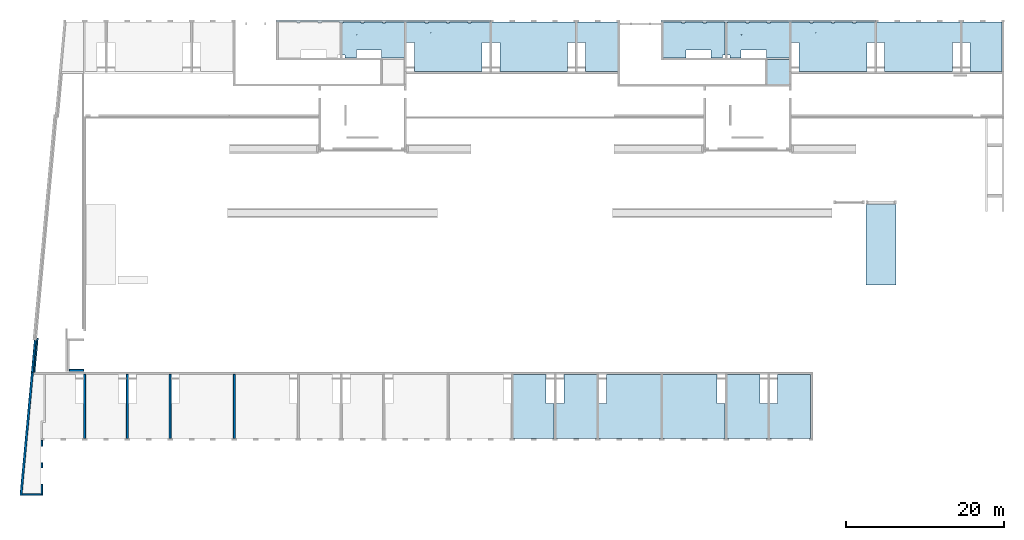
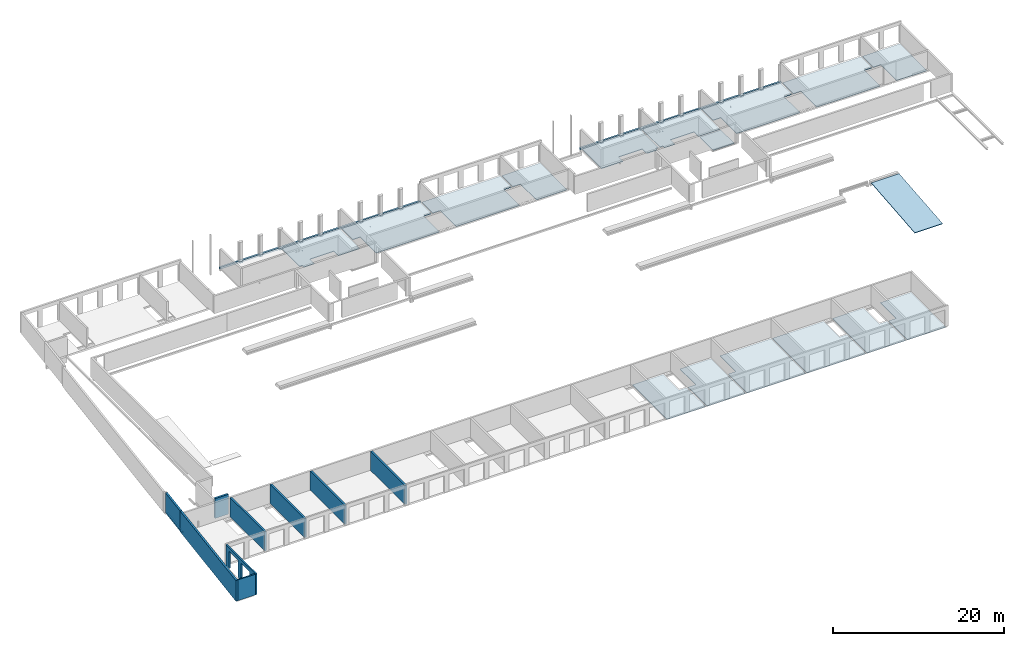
# One storey, part 7 of 18: 19 slabs, 10 walls, 6 openings.
"""IFC2X3 building model written with IfcOpenShell, lengths in millimetres."""

from ifc_helpers import new_model, entity, si_unit, converted_unit, derived_unit, direction, frame, frame_2d, origin, place, context, subcontext, project, spatial, polyline, rectangle, circle, outline, extrude, clip, halfspace, material, layer, layer_set, layer_usage, type_object, element, save


model = new_model("IFC2X3")

# Units and contexts
model_context = context("Model", 3, precision=0.01, world=origin(), true_north=direction((6.12303176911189e-17, 1.0)))
body_context = subcontext(model_context, "Body", "Model", "MODEL_VIEW")
ifc_project = project(units=[si_unit("LENGTHUNIT", "METRE", prefix="MILLI"), si_unit("AREAUNIT", "SQUARE_METRE"), si_unit("VOLUMEUNIT", "CUBIC_METRE"), converted_unit("PLANEANGLEUNIT", "DEGREE", entity("IfcRatioMeasure", 0.0174532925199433), si_unit("PLANEANGLEUNIT", "RADIAN"), dimensions=[0, 0, 0, 0, 0, 0, 0]), si_unit("MASSUNIT", "GRAM", prefix="KILO"), derived_unit("MASSDENSITYUNIT", [(si_unit("MASSUNIT", "GRAM", prefix="KILO"), 1), (si_unit("LENGTHUNIT", "METRE"), -3)]), si_unit("TIMEUNIT", "SECOND"), si_unit("FREQUENCYUNIT", "HERTZ"), si_unit("THERMODYNAMICTEMPERATUREUNIT", "DEGREE_CELSIUS"), derived_unit("THERMALTRANSMITTANCEUNIT", [(si_unit("MASSUNIT", "GRAM", prefix="KILO"), 1), (si_unit("THERMODYNAMICTEMPERATUREUNIT", "KELVIN"), -1), (si_unit("TIMEUNIT", "SECOND"), -3)]), derived_unit("VOLUMETRICFLOWRATEUNIT", [(si_unit("LENGTHUNIT", "METRE"), 3), (si_unit("TIMEUNIT", "SECOND"), -1)]), si_unit("ELECTRICCURRENTUNIT", "AMPERE"), si_unit("ELECTRICVOLTAGEUNIT", "VOLT"), si_unit("POWERUNIT", "WATT"), si_unit("FORCEUNIT", "NEWTON", prefix="KILO"), si_unit("ILLUMINANCEUNIT", "LUX"), si_unit("LUMINOUSFLUXUNIT", "LUMEN"), si_unit("LUMINOUSINTENSITYUNIT", "CANDELA"), derived_unit("USERDEFINED", [(si_unit("MASSUNIT", "GRAM", prefix="KILO"), -1), (si_unit("LENGTHUNIT", "METRE"), -2), (si_unit("TIMEUNIT", "SECOND"), 3), (si_unit("LUMINOUSFLUXUNIT", "LUMEN"), 1)]), derived_unit("LINEARVELOCITYUNIT", [(si_unit("LENGTHUNIT", "METRE"), 1), (si_unit("TIMEUNIT", "SECOND"), -1)]), si_unit("PRESSUREUNIT", "PASCAL"), derived_unit("USERDEFINED", [(si_unit("LENGTHUNIT", "METRE"), -2), (si_unit("MASSUNIT", "GRAM", prefix="KILO"), 1), (si_unit("TIMEUNIT", "SECOND"), -2)])], contexts=[model_context])

# Site, building, storey
site_placement = place(None, origin())
site = spatial("IfcSite", under=ifc_project, at=site_placement, Name="Default", CompositionType="ELEMENT")
building_placement = place(site_placement, origin())
building = spatial("IfcBuilding", under=site, at=building_placement, Name="niet gebruiken", CompositionType="ELEMENT")
storey_placement = place(building_placement, frame((0.0, 0.0, 3690.0)))
storey = spatial("IfcBuildingStorey", under=building, at=storey_placement, Name="01 eerste verdieping", CompositionType="ELEMENT", Elevation=3690.00000000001)

# Slabs
ifc_material_1 = material(Name="NLRS_f2_beton ihwg")
ifc_layer_1 = layer(ifc_material_1, 250.0)
ifc_layer_set_1 = layer_set([ifc_layer_1], Name="Floor:NLRS_23.21_FL_breedplaat d=70/250_schil apart_gen")
ifc_layer_usage_1 = layer_usage(ifc_layer_set_1, "AXIS3", "POSITIVE", 0.0)
slab_1_placement = place(storey_placement, frame((32300.0, 52846.0, -340.0)))
element("IfcSlab", 1, at=slab_1_placement, inside=storey, material=ifc_layer_usage_1, Name="Floor:NLRS_23.21_FL_breedplaat d=70/250_schil apart_gen", ObjectType="Floor:NLRS_23.21_FL_breedplaat d=70/250_schil apart_gen", PredefinedType="FLOOR", context=body_context, shape_type="SweptSolid", body=[
    extrude(outline(polyline([(13540.0, 205.0), (-13540.0, 205.0), (-13540.0, -45.0), (-11065.0, -45.0), (-11065.0, -205.0), (-10655.0, -205.0), (-10655.0, -45.0), (-8365.0, -45.0), (-8365.0, -205.0), (-7955.0, -205.0), (-7955.0, -45.0), (-5665.0, -45.0), (-5665.0, -205.0), (-5255.0, -205.0), (-5255.0, -45.0), (-265.0, -45.0), (-265.0, -205.0), (145.0, -205.0), (145.0, -45.0), (2435.0, -45.0), (2435.0, -205.0), (2845.0, -205.0), (2845.0, -45.0), (5135.0, -45.0), (5135.0, -205.0), (5545.0, -205.0), (5545.0, -45.0), (7835.0, -45.0), (7835.0, -205.0), (8245.0, -205.0), (8245.0, -45.0), (10535.0, -45.0), (10535.0, -205.0), (10945.0, -205.0), (10945.0, -45.0), (13540.0, -45.0), (13540.0, 205.0)])), frame((13540.0, 205.0, 250.0), z_axis=(0.0, 0.0, -1.0), x_axis=(-1.0, 0.0, 0.0)), (0.0, 0.0, 1.0), 250.0),
])
ifc_layer_usage_2 = layer_usage(ifc_layer_set_1, "AXIS3", "POSITIVE", 0.0)
slab_2_placement = place(storey_placement, frame((80900.0, 52846.0, -340.0)))
element("IfcSlab", 2, at=slab_2_placement, inside=storey, material=ifc_layer_usage_2, Name="Floor:NLRS_23.21_FL_breedplaat d=70/250_schil apart_gen", ObjectType="Floor:NLRS_23.21_FL_breedplaat d=70/250_schil apart_gen", PredefinedType="FLOOR", context=body_context, shape_type="SweptSolid", body=[
    extrude(outline(polyline([(13540.0, 205.0), (-13540.0, 205.0), (-13540.0, -45.0), (-11065.0, -45.0), (-11065.0, -205.0), (-10655.0, -205.0), (-10655.0, -45.0), (-8365.0, -45.0), (-8365.0, -205.0), (-7955.0, -205.0), (-7955.0, -45.0), (-5665.0, -45.0), (-5665.0, -205.0), (-5255.0, -205.0), (-5255.0, -45.0), (-265.0, -45.0), (-265.0, -205.0), (145.0, -205.0), (145.0, -45.0), (2435.0, -45.0), (2435.0, -205.0), (2845.0, -205.0), (2845.0, -45.0), (5135.0, -45.0), (5135.0, -205.0), (5545.0, -205.0), (5545.0, -45.0), (7835.0, -45.0), (7835.0, -205.0), (8245.0, -205.0), (8245.0, -45.0), (10535.0, -45.0), (10535.0, -205.0), (10945.0, -205.0), (10945.0, -45.0), (13540.0, -45.0), (13540.0, 205.0)])), frame((13540.0, 205.0, 250.0), z_axis=(0.0, 0.0, -1.0), x_axis=(-1.0, 0.0, 0.0)), (0.0, 0.0, 1.0), 250.0),
])
ifc_material_2 = material(Name="NLRS_f2_beton prefab")
ifc_layer_2 = layer(ifc_material_2, 70.0)
ifc_layer_set_2 = layer_set([ifc_layer_2], Name="Floor:NLRS_23.21_FL_breedplaatschil d=70_gen")
ifc_layer_usage_3 = layer_usage(ifc_layer_set_2, "AXIS3", "POSITIVE", 0.0)
slab_3_placement = place(storey_placement, origin())
element("IfcSlab", 3, at=slab_3_placement, inside=storey, material=ifc_layer_usage_3, Name="Floor:NLRS_23.21_FL_breedplaatschil d=70_gen", ObjectType="Floor:NLRS_23.21_FL_breedplaatschil d=70_gen", PredefinedType="FLOOR", context=body_context, shape_type="SweptSolid", body=[
    extrude(outline(polyline([(-4164.0, -2070.0), (232.0, -2070.0), (232.0, -1050.0), (3932.0, -1050.0), (3932.0, 3120.0), (-4164.0, 3120.0), (-4164.0, -2070.0)])), frame((96675.0, 4584.0, -270.0), z_axis=(0.0, 0.0, -1.0), x_axis=(0.0, 1.0, 0.0)), (0.0, 0.0, 1.0), 69.9999999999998),
])
ifc_layer_usage_4 = layer_usage(ifc_layer_set_2, "AXIS3", "POSITIVE", 0.0)
slab_4_placement = place(storey_placement, origin())
element("IfcSlab", 4, at=slab_4_placement, inside=storey, material=ifc_layer_usage_4, Name="Floor:NLRS_23.21_FL_breedplaatschil d=70_gen", ObjectType="Floor:NLRS_23.21_FL_breedplaatschil d=70_gen", PredefinedType="FLOOR", context=body_context, shape_type="SweptSolid", body=[
    extrude(outline(polyline([(-4164.0, -3120.0), (3932.0, -3120.0), (3932.0, 1050.0), (232.0, 1050.0), (232.0, 2070.0), (-4164.0, 2070.0), (-4164.0, -3120.0)])), frame((65325.0, 4584.0, -270.0), z_axis=(0.0, 0.0, -1.0), x_axis=(0.0, 1.0, 0.0)), (0.0, 0.0, 1.0), 69.9999999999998),
])
ifc_layer_usage_5 = layer_usage(ifc_layer_set_2, "AXIS3", "POSITIVE", 0.0)
slab_5_placement = place(storey_placement, origin())
element("IfcSlab", 5, at=slab_5_placement, inside=storey, material=ifc_layer_usage_5, Name="Floor:NLRS_23.21_FL_breedplaatschil d=70_gen", ObjectType="Floor:NLRS_23.21_FL_breedplaatschil d=70_gen", PredefinedType="FLOOR", context=body_context, shape_type="SweptSolid", body=[
    extrude(outline(polyline([(-4164.0, -2070.0), (232.0, -2070.0), (232.0, -1050.0), (3932.0, -1050.0), (3932.0, 3120.0), (-4164.0, 3120.0), (-4164.0, -2070.0)])), frame((69675.0, 4584.0, -270.0), z_axis=(0.0, 0.0, -1.0), x_axis=(0.0, 1.0, 0.0)), (0.0, 0.0, 1.0), 69.9999999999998),
])
ifc_layer_usage_6 = layer_usage(ifc_layer_set_2, "AXIS3", "POSITIVE", 0.0)
slab_6_placement = place(storey_placement, origin())
element("IfcSlab", 6, at=slab_6_placement, inside=storey, material=ifc_layer_usage_6, Name="Floor:NLRS_23.21_FL_breedplaatschil d=70_gen", ObjectType="Floor:NLRS_23.21_FL_breedplaatschil d=70_gen", PredefinedType="FLOOR", context=body_context, shape_type="SweptSolid", body=[
    extrude(outline(polyline([(-4164.0, -3120.0), (3932.0, -3120.0), (3932.0, 1050.0), (232.0, 1050.0), (232.0, 2070.0), (-4164.0, 2070.0), (-4164.0, -3120.0)])), frame((92325.0, 4584.0, -270.0), z_axis=(0.0, 0.0, -1.0), x_axis=(0.0, 1.0, 0.0)), (0.0, 0.0, 1.0), 69.9999999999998),
])
ifc_layer_usage_7 = layer_usage(ifc_layer_set_2, "AXIS3", "POSITIVE", 0.0)
slab_7_placement = place(storey_placement, origin())
element("IfcSlab", 7, at=slab_7_placement, inside=storey, material=ifc_layer_usage_7, Name="Floor:NLRS_23.21_FL_breedplaatschil d=70_gen", ObjectType="Floor:NLRS_23.21_FL_breedplaatschil d=70_gen", PredefinedType="FLOOR", context=body_context, shape_type="SweptSolid", body=[
    extrude(outline(polyline([(-4164.0, -2970.0), (232.0, -2970.0), (232.0, -1950.0), (3932.0, -1950.0), (3932.0, 4920.0), (-4164.0, 4920.0), (-4164.0, -2970.0)])), frame((75975.0, 4584.0, -270.0), z_axis=(0.0, 0.0, -1.0), x_axis=(0.0, 1.0, 0.0)), (0.0, 0.0, 1.0), 69.9999999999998),
])
ifc_layer_usage_8 = layer_usage(ifc_layer_set_2, "AXIS3", "POSITIVE", 0.0)
slab_8_placement = place(storey_placement, origin())
element("IfcSlab", 8, at=slab_8_placement, inside=storey, material=ifc_layer_usage_8, Name="Floor:NLRS_23.21_FL_breedplaatschil d=70_gen", ObjectType="Floor:NLRS_23.21_FL_breedplaatschil d=70_gen", PredefinedType="FLOOR", context=body_context, shape_type="SweptSolid", body=[
    extrude(outline(polyline([(-4164.0, -4920.0), (3932.0, -4920.0), (3932.0, 1950.0), (232.0, 1950.0), (232.0, 2970.0), (-4164.0, 2970.0), (-4164.0, -4920.0)])), frame((86025.0, 4584.0, -270.0), z_axis=(0.0, 0.0, -1.0), x_axis=(0.0, 1.0, 0.0)), (0.0, 0.0, 1.0), 69.9999999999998),
])

# Slab, opening
ifc_layer_usage_9 = layer_usage(ifc_layer_set_2, "AXIS3", "POSITIVE", 0.0)
slab_9_placement = place(storey_placement, frame((40605.0, 45136.0, -340.0)))
slab_9 = element("IfcSlab", 9, at=slab_9_placement, inside=storey, material=ifc_layer_usage_9, Name="Floor:NLRS_23.21_FL_breedplaatschil d=70_gen", ObjectType="Floor:NLRS_23.21_FL_breedplaatschil d=70_gen", PredefinedType="FLOOR", context=body_context, shape_type="SweptSolid", body=[
    extrude(outline(polyline([(-1535.0, 3945.0), (-3945.0, 3945.0), (-3945.0, -625.0), (-1055.0, -625.0), (-1055.0, 395.0), (2145.0, 395.0), (2145.0, -625.0), (3575.0, -625.0), (3575.0, -255.0), (3945.0, -255.0), (3945.0, 3785.0), (3865.0, 3785.0), (3865.0, 3945.0), (1535.0, 3945.0), (1535.0, 3785.0), (1165.0, 3785.0), (1165.0, 3945.0), (-1165.0, 3945.0), (-1165.0, 3785.0), (-1535.0, 3785.0), (-1535.0, 3945.0)])), frame((3945.0, 3945.0, 70.0), z_axis=(0.0, 0.0, -1.0), x_axis=(-1.0, 0.0, 0.0)), (0.0, 0.0, 1.0), 69.9999999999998),
])
opening_1_placement = place(storey_placement, frame((40605.0, 45136.0, -340.0)))
element("IfcOpeningElement", 10, at=opening_1_placement, cuts=slab_9, ObjectType="Opening", context=body_context, shape_type="SweptSolid", body=[
    extrude(circle(Radius=37.5, at=frame_2d((2100.0, 2325.0), x_axis=(1.0, 0.0))), frame((3945.0, 3945.0, 70.0), z_axis=(0.0, 0.0, -1.0), x_axis=(-1.0, 0.0, 0.0)), (0.0, 0.0, 1.0), 69.9999999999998),
])

# Slabs
ifc_layer_usage_10 = layer_usage(ifc_layer_set_2, "AXIS3", "POSITIVE", 0.0)
slab_10_placement = place(storey_placement, origin())
element("IfcSlab", 11, at=slab_10_placement, inside=storey, material=ifc_layer_usage_10, Name="Floor:NLRS_23.21_FL_breedplaatschil d=70_gen", ObjectType="Floor:NLRS_23.21_FL_breedplaatschil d=70_gen", PredefinedType="FLOOR", context=body_context, shape_type="SweptSolid", body=[
    extrude(outline(polyline([(285.0, -5295.0), (2845.0, -5295.0), (2845.0, 5295.0), (285.0, 5295.0), (285.0, 4275.0), (-3415.0, 4275.0), (-3415.0, -4275.0), (285.0, -4275.0), (285.0, -5295.0)])), frame((64800.0, 50141.0, -270.0), z_axis=(0.0, 0.0, -1.0), x_axis=(0.0, 1.0, 0.0)), (0.0, 0.0, 1.0), 69.9999999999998),
])
ifc_layer_usage_11 = layer_usage(ifc_layer_set_2, "AXIS3", "POSITIVE", 0.0)
slab_11_placement = place(storey_placement, origin())
element("IfcSlab", 12, at=slab_11_placement, inside=storey, material=ifc_layer_usage_11, Name="Floor:NLRS_23.21_FL_breedplaatschil d=70_gen", ObjectType="Floor:NLRS_23.21_FL_breedplaatschil d=70_gen", PredefinedType="FLOOR", context=body_context, shape_type="SweptSolid", body=[
    extrude(outline(polyline([(380.0, -2061.66666666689), (2940.0, -2061.66666666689), (2940.0, 3103.33333333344), (-3320.0, 3103.33333333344), (-3320.0, -1041.66666666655), (380.0, -1041.66666666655), (380.0, -2061.66666666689)])), frame((72366.6666666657, 50046.0, -270.0), z_axis=(0.0, 0.0, -1.0), x_axis=(0.0, 1.0, 0.0)), (0.0, 0.0, 1.0), 69.9999999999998),
])

# Slab, opening
ifc_layer_usage_12 = layer_usage(ifc_layer_set_2, "AXIS3", "POSITIVE", 0.0)
slab_12_placement = place(storey_placement, frame((48705.0, 46726.0, -340.0)))
slab_12 = element("IfcSlab", 13, at=slab_12_placement, inside=storey, material=ifc_layer_usage_12, Name="Floor:NLRS_23.21_FL_breedplaatschil d=70_gen", ObjectType="Floor:NLRS_23.21_FL_breedplaatschil d=70_gen", PredefinedType="FLOOR", context=body_context, shape_type="SweptSolid", body=[
    extrude(outline(polyline([(2885.0, 3150.0), (2885.0, 2990.0), (2515.0, 2990.0), (2515.0, 3150.0), (185.0, 3150.0), (185.0, 2990.0), (-185.0, 2990.0), (-185.0, 3150.0), (-2515.0, 3150.0), (-2515.0, 2990.0), (-2885.0, 2990.0), (-2885.0, 3150.0), (-5295.0, 3150.0), (-5295.0, 550.0), (-4275.0, 550.0), (-4275.0, -3150.0), (4275.0, -3150.0), (4275.0, 550.0), (5295.0, 550.0), (5295.0, 3150.0), (2885.0, 3150.0)])), frame((5295.0, 3150.0, 70.0), z_axis=(0.0, 0.0, -1.0), x_axis=(-1.0, 0.0, 0.0)), (0.0, 0.0, 1.0), 69.9999999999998),
])
opening_2_placement = place(storey_placement, frame((48705.0, 46726.0, -340.0)))
element("IfcOpeningElement", 14, at=opening_2_placement, cuts=slab_12, ObjectType="Opening", context=body_context, shape_type="SweptSolid", body=[
    extrude(circle(Radius=37.5, at=frame_2d((2200.0, 1780.0), x_axis=(1.0, 0.0))), frame((5295.0, 3150.0, 70.0), z_axis=(0.0, 0.0, -1.0), x_axis=(-1.0, 0.0, 0.0)), (0.0, 0.0, 1.0), 69.9999999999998),
])

# Slab
ifc_layer_usage_13 = layer_usage(ifc_layer_set_2, "AXIS3", "POSITIVE", 0.0)
slab_13_placement = place(storey_placement, origin())
element("IfcSlab", 15, at=slab_13_placement, inside=storey, material=ifc_layer_usage_13, Name="Floor:NLRS_23.21_FL_breedplaatschil d=70_gen", ObjectType="Floor:NLRS_23.21_FL_breedplaatschil d=70_gen", PredefinedType="FLOOR", context=body_context, shape_type="SweptSolid", body=[
    extrude(outline(polyline([(-2833.0, -4781.4999999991), (1737.0, -4781.4999999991), (1737.0, -2396.5000000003), (1577.0, -2396.5000000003), (1577.0, -2026.50000000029), (1737.0, -2026.50000000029), (1737.0, 303.499999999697), (1577.0, 303.499999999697), (1577.0, 673.4999999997), (1737.0, 673.4999999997), (1737.0, 3003.49999999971), (1577.0, 3003.49999999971), (1577.0, 3083.49999999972), (-2463.0, 3083.49999999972), (-2463.0, 2713.50000000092), (-2833.0, 2713.50000000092), (-2833.0, 1313.49999999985), (-1813.0, 1313.49999999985), (-1813.0, -1886.50000000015), (-2833.0, -1886.50000000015), (-2833.0, -4781.4999999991)])), frame((85911.4999999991, 51289.0, -270.0), z_axis=(0.0, 0.0, -1.0), x_axis=(0.0, 1.0, 0.0)), (0.0, 0.0, 1.0), 69.9999999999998),
])

# Slab, opening
ifc_layer_usage_14 = layer_usage(ifc_layer_set_2, "AXIS3", "POSITIVE", 0.0)
slab_14_placement = place(storey_placement, frame((89205.0, 45136.0, -340.0)))
slab_14 = element("IfcSlab", 16, at=slab_14_placement, inside=storey, material=ifc_layer_usage_14, Name="Floor:NLRS_23.21_FL_breedplaatschil d=70_gen", ObjectType="Floor:NLRS_23.21_FL_breedplaatschil d=70_gen", PredefinedType="FLOOR", context=body_context, shape_type="SweptSolid", body=[
    extrude(outline(polyline([(-1535.0, 3945.0), (-3945.0, 3945.0), (-3945.0, -625.0), (-1055.0, -625.0), (-1055.0, 395.0), (2145.0, 395.0), (2145.0, -625.0), (3575.0, -625.0), (3575.0, -255.0), (3945.0, -255.0), (3945.0, 3785.0), (3865.0, 3785.0), (3865.0, 3945.0), (1535.0, 3945.0), (1535.0, 3785.0), (1165.0, 3785.0), (1165.0, 3945.0), (-1165.0, 3945.0), (-1165.0, 3785.0), (-1535.0, 3785.0), (-1535.0, 3945.0)])), frame((3945.0, 3945.0, 70.0), z_axis=(0.0, 0.0, -1.0), x_axis=(-1.0, 0.0, 0.0)), (0.0, 0.0, 1.0), 69.9999999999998),
])
opening_3_placement = place(storey_placement, frame((89205.0, 45136.0, -340.0)))
element("IfcOpeningElement", 17, at=opening_3_placement, cuts=slab_14, ObjectType="Opening", context=body_context, shape_type="SweptSolid", body=[
    extrude(circle(Radius=37.5, at=frame_2d((2100.0, 2325.0), x_axis=(1.0, 0.0))), frame((3945.0, 3945.0, 70.0), z_axis=(0.0, 0.0, -1.0), x_axis=(-1.0, 0.0, 0.0)), (0.0, 0.0, 1.0), 69.9999999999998),
])

# Slabs
slab_15_placement = place(storey_placement, frame((89205.0, 45136.0, -340.0)))
element("IfcSlab", 18, at=slab_15_placement, inside=storey, material=ifc_layer_usage_14, Name="Floor:NLRS_23.21_FL_breedplaatschil d=70_gen:2", ObjectType="Floor:NLRS_23.21_FL_breedplaatschil d=70_gen", PredefinedType="FLOOR", context=body_context, shape_type="SweptSolid", body=[
    extrude(rectangle(XDim=2840.0, YDim=3109.99999999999, at=frame_2d((-2525.0, -2390.0), x_axis=(1.0, 0.0))), frame((3945.0, 3945.0, 70.0), z_axis=(0.0, 0.0, -1.0), x_axis=(-1.0, 0.0, 0.0)), (0.0, 0.0, 1.0), 69.9999999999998),
])
ifc_layer_usage_15 = layer_usage(ifc_layer_set_2, "AXIS3", "POSITIVE", 0.0)
slab_16_placement = place(storey_placement, origin())
element("IfcSlab", 19, at=slab_16_placement, inside=storey, material=ifc_layer_usage_15, Name="Floor:NLRS_23.21_FL_breedplaatschil d=70_gen", ObjectType="Floor:NLRS_23.21_FL_breedplaatschil d=70_gen", PredefinedType="FLOOR", context=body_context, shape_type="SweptSolid", body=[
    extrude(outline(polyline([(285.0, -5295.0), (2845.0, -5295.0), (2845.0, 5295.0), (285.0, 5295.0), (285.0, 4275.0), (-3415.0, 4275.0), (-3415.0, -4275.0), (285.0, -4275.0), (285.0, -5295.0)])), frame((113400.0, 50141.0, -270.0), z_axis=(0.0, 0.0, -1.0), x_axis=(0.0, 1.0, 0.0)), (0.0, 0.0, 1.0), 69.9999999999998),
])
ifc_layer_usage_16 = layer_usage(ifc_layer_set_2, "AXIS3", "POSITIVE", 0.0)
slab_17_placement = place(storey_placement, origin())
element("IfcSlab", 20, at=slab_17_placement, inside=storey, material=ifc_layer_usage_16, Name="Floor:NLRS_23.21_FL_breedplaatschil d=70_gen", ObjectType="Floor:NLRS_23.21_FL_breedplaatschil d=70_gen", PredefinedType="FLOOR", context=body_context, shape_type="SweptSolid", body=[
    extrude(outline(polyline([(380.0, -2028.33333333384), (2940.0, -2028.33333333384), (2940.0, 3036.66666666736), (-3320.0, 3036.66666666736), (-3320.0, -1008.3333333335), (380.0, -1008.3333333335), (380.0, -2028.33333333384)])), frame((120933.333333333, 50046.0, -270.0), z_axis=(0.0, 0.0, -1.0), x_axis=(0.0, 1.0, 0.0)), (0.0, 0.0, 1.0), 69.9999999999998),
])

# Slab, opening
ifc_layer_usage_17 = layer_usage(ifc_layer_set_2, "AXIS3", "POSITIVE", 0.0)
slab_18_placement = place(storey_placement, frame((97305.0, 46726.0, -340.0)))
slab_18 = element("IfcSlab", 21, at=slab_18_placement, inside=storey, material=ifc_layer_usage_17, Name="Floor:NLRS_23.21_FL_breedplaatschil d=70_gen", ObjectType="Floor:NLRS_23.21_FL_breedplaatschil d=70_gen", PredefinedType="FLOOR", context=body_context, shape_type="SweptSolid", body=[
    extrude(outline(polyline([(2885.0, 3150.0), (2885.0, 2990.0), (2515.0, 2990.0), (2515.0, 3150.0), (185.0, 3150.0), (185.0, 2990.0), (-185.0, 2990.0), (-185.0, 3150.0), (-2515.0, 3150.0), (-2515.0, 2990.0), (-2885.0, 2990.0), (-2885.0, 3150.0), (-5295.0, 3150.0), (-5295.0, 550.0), (-4275.0, 550.0), (-4275.0, -3150.0), (4275.0, -3150.0), (4275.0, 550.0), (5295.0, 550.0), (5295.0, 3150.0), (2885.0, 3150.0)])), frame((5295.0, 3150.0, 70.0), z_axis=(0.0, 0.0, -1.0), x_axis=(-1.0, 0.0, 0.0)), (0.0, 0.0, 1.0), 69.9999999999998),
])
opening_4_placement = place(storey_placement, frame((97305.0, 46726.0, -340.0)))
element("IfcOpeningElement", 22, at=opening_4_placement, cuts=slab_18, ObjectType="Opening", context=body_context, shape_type="SweptSolid", body=[
    extrude(circle(Radius=37.5, at=frame_2d((2200.0, 1780.0), x_axis=(1.0, 0.0))), frame((5295.0, 3150.0, 70.0), z_axis=(0.0, 0.0, -1.0), x_axis=(-1.0, 0.0, 0.0)), (0.0, 0.0, 1.0), 69.9999999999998),
])

# Slab
ifc_layer_usage_18 = layer_usage(ifc_layer_set_2, "AXIS3", "POSITIVE", 0.0)
slab_19_placement = place(storey_placement, origin())
element("IfcSlab", 23, at=slab_19_placement, inside=storey, material=ifc_layer_usage_18, Name="Floor:NLRS_23.21_FL_breedplaatschil d=70_gen", ObjectType="Floor:NLRS_23.21_FL_breedplaatschil d=70_gen", PredefinedType="FLOOR", context=body_context, shape_type="Clipping", body=[
    clip(clip(extrude(rectangle(XDim=10225.3974861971, YDim=3759.99999999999, at=frame_2d((0.0, -8.64019966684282e-12), x_axis=(1.0, 0.0))), frame((108675.0, 24876.0, -585.47714538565), z_axis=(0.0, 0.0941257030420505, -0.995560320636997), x_axis=(0.0, 0.995560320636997, 0.0941257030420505)), (-0.0941257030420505, 0.0, 0.995560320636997), 70.625719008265), halfspace(frame((108675.0, 19425.4411853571, -1171.11486950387), z_axis=(0.0, 0.0941257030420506, -0.995560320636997), x_axis=(0.0, 0.995560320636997, 0.0941257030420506)), False)), halfspace(frame((108675.0, 19425.4411853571, -1100.80270604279), z_axis=(0.0, -0.0941257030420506, 0.995560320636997), x_axis=(0.0, -0.995560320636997, -0.0941257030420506)), False)),
])

# Walls
ifc_layer_3 = layer(ifc_material_1, 250.0)
ifc_layer_set_3 = layer_set([ifc_layer_3], Name="Basic Wall:NLRS_22.21_WA_beton ihwg d=250_gen")
ifc_layer_usage_19 = layer_usage(ifc_layer_set_3, "AXIS2", "NEGATIVE", 125.0)
wall_type_1 = type_object("IfcWallType", Name="Basic Wall:NLRS_22.21_WA_beton ihwg d=250_gen", PredefinedType="STANDARD", material=ifc_layer_set_3)
wall_1_placement = place(storey_placement, frame((8100.0, 8496.0, -90.0), z_axis=(0.0, 0.0, 1.0), x_axis=(0.0, -1.0, 0.0)))
element("IfcWallStandardCase", 24, at=wall_1_placement, inside=storey, type_object=wall_type_1, material=ifc_layer_usage_19, Name="Basic Wall:NLRS_22.21_WA_beton ihwg d=250_gen", ObjectType="Basic Wall:NLRS_22.21_WA_beton ihwg d=250_gen", context=body_context, shape_type="SweptSolid", body=[
    extrude(rectangle(XDim=8075.99999999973, YDim=249.999999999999, at=frame_2d((4037.99999999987, 0.0), x_axis=(-1.0, 0.0))), origin(), (0.0, 0.0, 1.0), 2719.99999999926),
])
ifc_layer_usage_20 = layer_usage(ifc_layer_set_3, "AXIS2", "NEGATIVE", 125.0)
wall_2_placement = place(storey_placement, frame((13500.0, 8496.0, -90.0), z_axis=(0.0, 0.0, 1.0), x_axis=(0.0, -1.0, 0.0)))
element("IfcWallStandardCase", 25, at=wall_2_placement, inside=storey, type_object=wall_type_1, material=ifc_layer_usage_20, Name="Basic Wall:NLRS_22.21_WA_beton ihwg d=250_gen", ObjectType="Basic Wall:NLRS_22.21_WA_beton ihwg d=250_gen", context=body_context, shape_type="SweptSolid", body=[
    extrude(rectangle(XDim=8075.99999999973, YDim=249.999999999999, at=frame_2d((4037.99999999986, 0.0), x_axis=(-1.0, 0.0))), origin(), (0.0, 0.0, 1.0), 2720.00000000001),
])
ifc_layer_usage_21 = layer_usage(ifc_layer_set_3, "AXIS2", "NEGATIVE", 125.0)
wall_3_placement = place(storey_placement, frame((18900.0, 8496.0, -90.0), z_axis=(0.0, 0.0, 1.0), x_axis=(0.0, -1.0, 0.0)))
element("IfcWallStandardCase", 26, at=wall_3_placement, inside=storey, type_object=wall_type_1, material=ifc_layer_usage_21, Name="Basic Wall:NLRS_22.21_WA_beton ihwg d=250_gen", ObjectType="Basic Wall:NLRS_22.21_WA_beton ihwg d=250_gen", context=body_context, shape_type="SweptSolid", body=[
    extrude(rectangle(XDim=8075.99999999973, YDim=249.999999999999, at=frame_2d((4037.99999999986, 0.0), x_axis=(-1.0, 0.0))), origin(), (0.0, 0.0, 1.0), 2720.00000000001),
])
ifc_layer_usage_22 = layer_usage(ifc_layer_set_3, "AXIS2", "NEGATIVE", 125.0)
wall_4_placement = place(storey_placement, frame((27000.0, 8496.0, -90.0), z_axis=(0.0, 0.0, 1.0), x_axis=(0.0, -1.0, 0.0)))
element("IfcWallStandardCase", 27, at=wall_4_placement, inside=storey, type_object=wall_type_1, material=ifc_layer_usage_22, Name="Basic Wall:NLRS_22.21_WA_beton ihwg d=250_gen", ObjectType="Basic Wall:NLRS_22.21_WA_beton ihwg d=250_gen", context=body_context, shape_type="SweptSolid", body=[
    extrude(rectangle(XDim=8075.99999999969, YDim=250.000000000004, at=frame_2d((4037.99999999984, 0.0), x_axis=(-1.0, 0.0))), origin(), (0.0, 0.0, 1.0), 2720.00000000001),
])
ifc_layer_4 = layer(ifc_material_2, 250.0)
ifc_layer_set_4 = layer_set([ifc_layer_4], Name="Basic Wall:NLRS_21.21_WA_beton prefab d=250_gen")
ifc_layer_usage_23 = layer_usage(ifc_layer_set_4, "AXIS2", "NEGATIVE", 125.0)
wall_type_2 = type_object("IfcWallType", Name="Basic Wall:NLRS_21.21_WA_beton prefab d=250_gen", PredefinedType="STANDARD", material=ifc_layer_set_4)
wall_5_placement = place(storey_placement, frame((7975.0, 9011.0, 50.0), z_axis=(0.0, 0.0, 1.0), x_axis=(-1.0, 0.0, 0.0)))
element("IfcWallStandardCase", 28, at=wall_5_placement, inside=storey, type_object=wall_type_2, material=ifc_layer_usage_23, Name="Basic Wall:NLRS_21.21_WA_beton prefab d=250_gen", ObjectType="Basic Wall:NLRS_21.21_WA_beton prefab d=250_gen", context=body_context, shape_type="SweptSolid", body=[
    extrude(rectangle(XDim=1800.0, YDim=249.999999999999, at=frame_2d((900.0, 0.0), x_axis=(-1.0, 0.0))), origin(), (0.0, 0.0, 1.0), 2829.99999999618),
])
ifc_layer_usage_24 = layer_usage(ifc_layer_set_4, "AXIS2", "NEGATIVE", 125.0)
wall_6_placement = place(storey_placement, frame((1880.38498072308, 12844.4626619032, 50.0), z_axis=(0.0, 0.0, 1.0), x_axis=(-0.0922987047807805, -0.995731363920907, 0.0)))
element("IfcWallStandardCase", 29, at=wall_6_placement, inside=storey, type_object=wall_type_2, material=ifc_layer_usage_24, Name="Basic Wall:NLRS_21.21_WA_beton prefab d=250_gen", ObjectType="Basic Wall:NLRS_21.21_WA_beton prefab d=250_gen", context=body_context, shape_type="SweptSolid", body=[
    extrude(rectangle(XDim=4116.03250676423, YDim=250.0, at=frame_2d((2058.01625338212, 1.06581410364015e-13), x_axis=(-1.0, 0.0))), origin(), (0.0, 0.0, 1.0), 2830.0),
])
ifc_layer_usage_25 = layer_usage(ifc_layer_set_4, "AXIS2", "NEGATIVE", 125.0)
wall_7_placement = place(storey_placement, frame((1499.41106507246, 8734.46266190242, -70.0), z_axis=(0.0, 0.0, 1.0), x_axis=(-0.0922987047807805, -0.995731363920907, 0.0)))
element("IfcWallStandardCase", 30, at=wall_7_placement, inside=storey, type_object=wall_type_2, material=ifc_layer_usage_25, Name="Basic Wall:NLRS_21.21_WA_beton prefab d=250_gen", ObjectType="Basic Wall:NLRS_21.21_WA_beton prefab d=250_gen", context=body_context, shape_type="SweptSolid", body=[
    extrude(outline(polyline([(15592.5589597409, -125.0), (15569.3853638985, 125.0), (15368.5279768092, 125.0), (0.0, 125.0), (0.0, -125.0), (15592.5589597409, -125.0)])), origin(), (0.0, 0.0, 1.0), 2950.0),
])

# Wall, openings
ifc_layer_5 = layer(ifc_material_2, 200.0)
ifc_layer_set_5 = layer_set([ifc_layer_5], Name="Basic Wall:NLRS_21.21_WA_beton prefab d=200_gen")
ifc_layer_usage_26 = layer_usage(ifc_layer_set_5, "AXIS2", "NEGATIVE", 100.0)
wall_type_3 = type_object("IfcWallType", Name="Basic Wall:NLRS_21.21_WA_beton prefab d=200_gen", PredefinedType="STANDARD", material=ifc_layer_set_5)
wall_8_placement = place(storey_placement, frame((2700.0, 180.0, -70.0), z_axis=(0.0, 0.0, 1.0), x_axis=(0.0, -1.0, 0.0)))
wall_8 = element("IfcWallStandardCase", 31, at=wall_8_placement, inside=storey, type_object=wall_type_3, material=ifc_layer_usage_26, Name="Basic Wall:NLRS_21.21_WA_beton prefab d=200_gen", ObjectType="Basic Wall:NLRS_21.21_WA_beton prefab d=200_gen", context=body_context, shape_type="SweptSolid", body=[
    extrude(rectangle(XDim=6960.0, YDim=200.0, at=frame_2d((3480.0, -2.1316282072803e-14), x_axis=(-1.0, 0.0))), origin(), (0.0, 0.0, 1.0), 2949.9999999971),
])
opening_5_placement = place(wall_8_placement, origin())
element("IfcOpeningElement", 32, at=opening_5_placement, cuts=wall_8, Name="Basic Wall:NLRS_21.21_WA_beton prefab d=200_gen", ObjectType="Opening", context=body_context, shape_type="SweptSolid", body=[
    extrude(rectangle(XDim=2420.0, YDim=2080.0, at=frame_2d((-3.41060513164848e-13, 0.0), x_axis=(1.0, 0.0))), frame((1820.0, -1624.0, 1210.0), z_axis=(0.0, 1.0, 0.0), x_axis=(0.0, 0.0, 1.0)), (0.0, 0.0, 1.0), 3048.0),
])
opening_6_placement = place(wall_8_placement, origin())
element("IfcOpeningElement", 33, at=opening_6_placement, cuts=wall_8, Name="Basic Wall:NLRS_21.21_WA_beton prefab d=200_gen", ObjectType="Opening", context=body_context, shape_type="SweptSolid", body=[
    extrude(rectangle(XDim=2420.0, YDim=2080.0, at=frame_2d((-3.41060513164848e-13, -3.41060513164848e-13), x_axis=(1.0, 0.0))), frame((4520.0, -1624.0, 1210.0), z_axis=(0.0, 1.0, 0.0), x_axis=(0.0, 0.0, 1.0)), (0.0, 0.0, 1.0), 3048.0),
])

# Walls
ifc_layer_usage_27 = layer_usage(ifc_layer_set_5, "AXIS2", "NEGATIVE", 100.0)
wall_9_placement = place(storey_placement, frame((186.843382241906, -6680.0, -70.0)))
element("IfcWallStandardCase", 34, at=wall_9_placement, inside=storey, type_object=wall_type_3, material=ifc_layer_usage_27, Name="Basic Wall:NLRS_21.21_WA_beton prefab d=200_gen", ObjectType="Basic Wall:NLRS_21.21_WA_beton prefab d=200_gen", context=body_context, shape_type="SweptSolid", body=[
    extrude(outline(polyline([(2413.15661775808, -100.0), (2413.15661775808, 100.0), (18.5388766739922, 100.0), (0.0, -100.0), (2413.15661775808, -100.0)])), origin(), (0.0, 0.0, 1.0), 2949.99999999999),
])
wall_type_4 = type_object("IfcWallType", Name="NLRS_21.21_SF_WPB_oplegnok prefabbeton_gen:200x250", PredefinedType="NOTDEFINED", material=ifc_material_2)
wall_10_placement = place(storey_placement, frame((1629.57346684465, 8765.91462727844, -410.0), z_axis=(0.0, 0.0, 1.0), x_axis=(0.0, 1.0, 0.0)))
element("IfcWall", 35, at=wall_10_placement, inside=storey, type_object=wall_type_4, material=ifc_material_2, Name="NLRS_21.21_SF_WPB_oplegnok prefabbeton_gen:200x250", ObjectType="NLRS_21.21_SF_WPB_oplegnok prefabbeton_gen:200x250", context=body_context, shape_type="SweptSolid", body=[
    extrude(rectangle(XDim=4315.90683216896, YDim=200.0, at=frame_2d((-853.908606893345, -39.9999999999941), x_axis=(1.0, 0.0))), frame((3011.9272987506, -337.734845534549, 0.0), z_axis=(0.0, 0.0, 1.0), x_axis=(0.995731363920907, -0.0922987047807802, 0.0)), (0.0, 0.0, 1.0), 250.000000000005),
])

save(model, "model.ifc")
